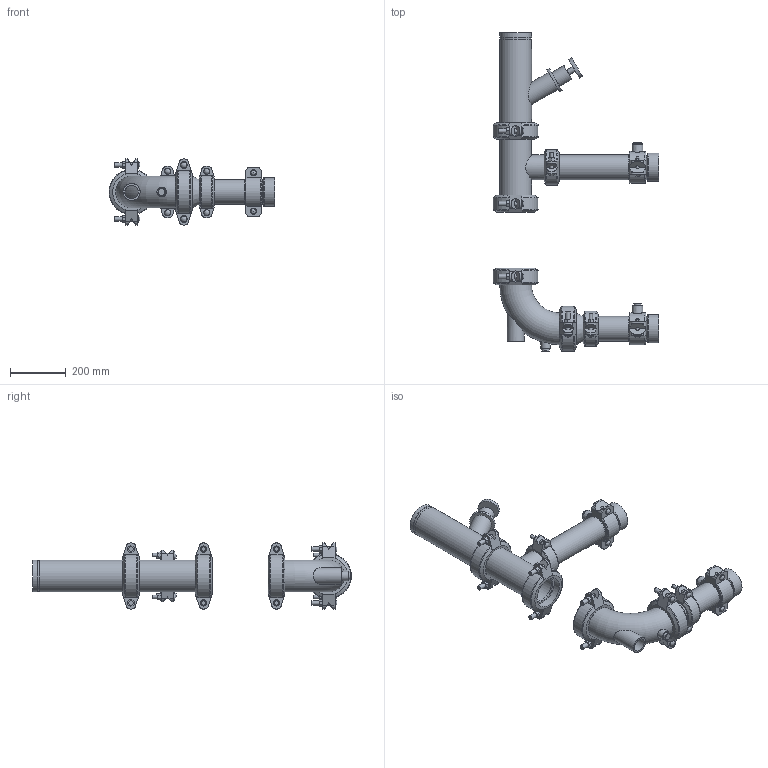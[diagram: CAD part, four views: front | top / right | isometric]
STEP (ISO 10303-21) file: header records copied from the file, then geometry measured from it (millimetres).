
FILE_DESCRIPTION(/* description */ ('VIC RVI DOUBLE COIL AHU DROP LOW PROFILE SERIES 385J (OGSxFPT)','CAx-IF Rec.Pracs.---Representation and Presentation of Product Manufacturing Information (PMI)---4.0---2014-10-13'),/* implementation_level */ '2;1');
FILE_NAME(/* name */ 'C:\Users\kkamble\AppData\Roaming\Autodesk\ApplicationPlugins\Victaulic.Temp\A836\Victaulic_IPS_RVI_Double Coil_Low Profile_Series 385J (OGSxFPT)_04.0x03.0 (100x80).stp',/* time_stamp */ '2021-03-17T12:26:32+06:00',/* author */ ('Vjadhav'),/* organization */ ('Victaulic'),/* preprocessor_version */ 'ST-DEVELOPER v17.2',/* originating_system */ 'Autodesk Inventor 2019',/* authorisation */ '');
FILE_SCHEMA (('AP242_MANAGED_MODEL_BASED_3D_ENGINEERING_MIM_LF { 1 0 10303 442 1 1 4 }'));
Length unit declared in the file: inch
Products named in the file (11): 385J-04.0x03.0; Pipe-03.0; 050-04.0x03.0; 025-04.0x03.0; 177N-04.0; 177N-03.0; Pipe_(11 5/8")-03.0; 072-03.0x0.75; 080-03.0; 100G-04.0; 789-04.0
Assembly tree (16 placements, depth 2):
  385J-04.0x03.0
    080-03.0  x2
    072-03.0x0.75  x2
    Pipe-03.0
    177N-03.0  x2
    050-04.0x03.0
    177N-04.0  x4
    025-04.0x03.0
    Pipe_(11 5/8")-03.0
    100G-04.0
    789-04.0
Bounding box: 595.08 x 1143.76 x 237.12 mm (x, y, z)
Volume: 8296615.4 mm3; surface area: 1818949 mm2
Topology: 16 solids, 16 shells, 874 faces, 2405 edges, 1604 vertices
Faces by surface type: plane 493, cylinder 281, torus 44, cone 38, sphere 12, bspline 6
Full cylindrical faces by diameter (mm): 10.16 x8, 12.7 x4, 14.605 x4, 15.875 x8, 19.05 x1, 20.93 x3, 21.59 x4, 22.225 x4, 23.495 x8, 26.67 x4, 34.29 x1, 48.26 x1, 57.15 x1, 60.96 x1, 69.85 x1, 76.2 x3, 77.787 x1, 77.927 x5, 84.938 x8, 88.9 x22, 92.05 x1, 101.6 x6, 102.26 x5, 110.084 x7, 114.3 x18
Entity records: 14665 total; most frequent: CARTESIAN_POINT 3077, DIRECTION 2383, ORIENTED_EDGE 2192, EDGE_CURVE 1096, AXIS2_PLACEMENT_3D 930, VERTEX_POINT 745, LINE 523, VECTOR 523
